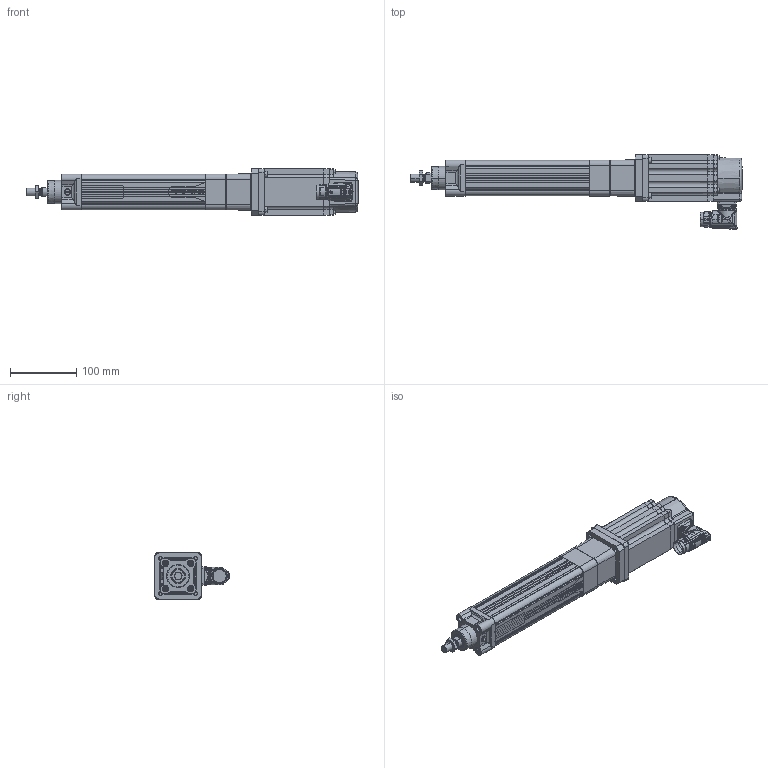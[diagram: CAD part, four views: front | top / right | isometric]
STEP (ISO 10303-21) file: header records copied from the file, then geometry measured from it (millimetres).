
FILE_DESCRIPTION((''),'2;1');
FILE_NAME('10004387243_ASM','2019-01-10T07:19:08',('MKedar'),('Rockwell Automation'),'CREO PARAMETRIC BY PTC INC, 2017380','CREO PARAMETRIC BY PTC INC, 2017380','');
FILE_SCHEMA(('CONFIG_CONTROL_DESIGN','SHAPE_APPEARANCE_LAYERS_GROUPS'));
Products named in the file (22): MPAR-X2100X-HOUSE-B; MPAR-X2100X-ROD-B; A627477; B627479; MPARX2100XELECCYLB_ASM; MPARX2XXXXCOUPHAUSB; MPARX2XXXFMTRFLNG_B; DIN912-5X12; MPARX2XXXFINLI_B_ASM; 10004346408; 10004346407; 10004346406; 10004346404; 10004310098; 10004310096; 10004346403; 10000169222; DIN912-3X10; 10004346405_ASM; DIN912-5X16; 10004346409_ASM; 10004387243_ASM
Assembly tree (37 placements, depth 4):
  10004387243_ASM
    MPARX2100XELECCYLB_ASM
      MPAR-X2100X-HOUSE-B
      MPAR-X2100X-ROD-B
      A627477
      B627479
    MPARX2XXXFINLI_B_ASM
      MPARX2XXXXCOUPHAUSB
      MPARX2XXXFMTRFLNG_B
      DIN912-5X12  x4
    10004346409_ASM
      10004346408
      10004346407
      10004346406
      10004346405_ASM
        10004346404
        10004310098
        10004310096
        10004346403
        10000169222  x4
        DIN912-3X10  x4
      10000169222  x4
      DIN912-5X16  x4
Bounding box: 499.5 x 112.24 x 70.31 mm (x, y, z)
Volume: 708640.9 mm3; surface area: 331064.8 mm2
Topology: 31 solids, 50 shells, 3608 faces, 9838 edges, 6396 vertices
Faces by surface type: plane 1378, cylinder 967, bspline 406, cone 390, torus 275, extrusion 147, sphere 43, revolution 2
Entity records: 180870 total; most frequent: CARTESIAN_POINT 68615, ORIENTED_EDGE 17872, DIRECTION 14289, EDGE_CURVE 8964, PRESENTATION_STYLE_ASSIGNMENT 8572, STYLED_ITEM 7665, CURVE_STYLE 6805, VERTEX_POINT 5910
